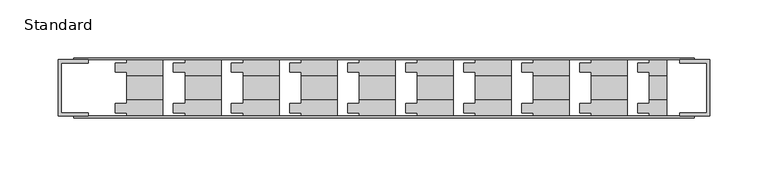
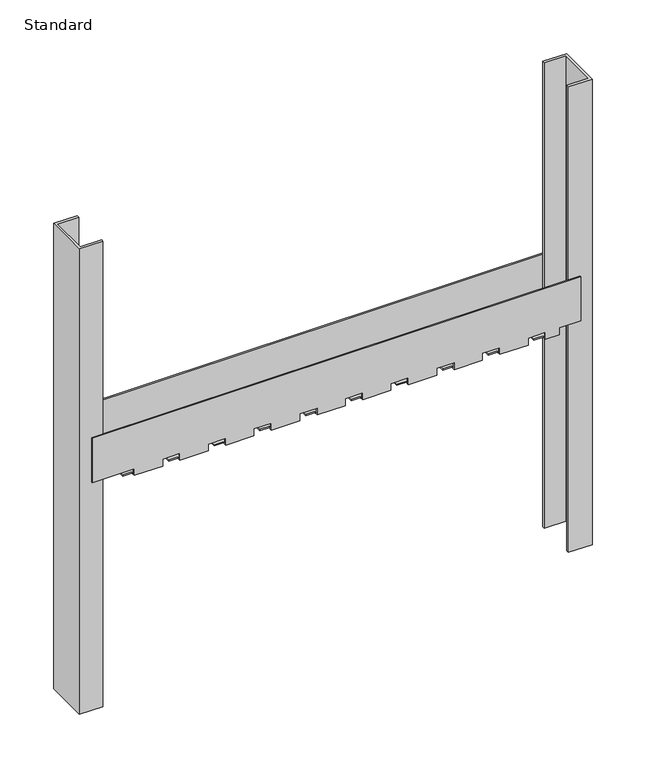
"""IFC4 building model written with IfcOpenShell, lengths in millimetres: electric appliance geometry, Bracket-Cross_Bar-Cablofil : Standard."""

from ifc_helpers import new_model, si_unit, frame, origin, place, context, project, spatial, polyline, outline, extrude, faceted_brep, source, transform, mapped, element, save


def standard_a21dcf37(model_context):
    return source(origin(), model_context, "Body", "SolidModel", [
        extrude(outline(polyline([(-254.67, 24.2445), (-254.67, 21.4945), (-278.0284, 21.4945), (-278.0284, -21.4945), (-254.67, -21.4945), (-254.67, -24.2445), (-280.67, -24.2445), (-280.67, 24.2445), (-254.67, 24.2445)])), frame((0.0, 0.0, -259.08), z_axis=(0.0, 0.0, 1.0), x_axis=(1.0, 0.0, 0.0)), (0.0, 0.0, 1.0), 538.48),
        extrude(outline(polyline([(254.67, 24.2445), (280.67, 24.2445), (280.67, -24.2445), (254.67, -24.2445), (254.67, -21.4945), (278.0284, -21.4945), (278.0284, 21.4945), (254.67, 21.4945), (254.67, 24.2445)])), frame((0.0, 0.0, -259.08), z_axis=(0.0, 0.0, 1.0), x_axis=(1.0, 0.0, 0.0)), (0.0, 0.0, 1.0), 538.48),
        faceted_brep([(267.3769456, 25.8445, 56.5), (267.3769456, 24.2445, 56.5), (267.3769456, 24.2445, 5.4905759), (267.3769456, 25.8445, 5.4905759), (267.3769456, -24.2445, 56.5), (267.3769456, -25.8445, 56.5), (267.3769456, -25.8445, 5.4905759), (267.3769456, -24.2445, 5.4905759), (-267.3769456, -25.8445, 56.5), (-267.3769456, -24.2445, 56.5), (-267.3769456, -24.2445, 5.4905759), (-267.3769456, -25.8445, 5.4905759), (-267.3769456, 24.2445, 56.5), (-267.3769456, 25.8445, 56.5), (-267.3769456, 25.8445, 5.4905759), (-267.3769456, 24.2445, 5.4905759), (-221.3269456, -25.8445, 5.4905759), (-221.3269456, -25.8445, -2.5), (-190.3269456, -25.8445, -2.5), (-190.3269456, -25.8445, 5.4905759), (-171.3269456, -25.8445, 5.4905759), (-171.3269456, -25.8445, -2.5), (-140.3269456, -25.8445, -2.5), (-140.3269456, -25.8445, 5.4905759), (-121.3269456, -25.8445, 5.4905759), (-121.3269456, -25.8445, -2.5), (-90.3269456, -25.8445, -2.5), (-90.3269456, -25.8445, 5.4905759), (-71.3269456, -25.8445, 5.4905759), (-71.3269456, -25.8445, -2.5), (-40.3269456, -25.8445, -2.5), (-40.3269456, -25.8445, 5.4905759), (-21.3269456, -25.8445, 5.4905759), (-21.3269456, -25.8445, -2.5), (9.525, -25.8445, -2.5), (9.525, -25.8445, 5.4905759), (28.525, -25.8445, 5.4905759), (28.525, -25.8445, -2.5), (59.525, -25.8445, -2.5), (59.525, -25.8445, 5.4905759), (78.525, -25.8445, 5.4905759), (78.525, -25.8445, -2.5), (109.525, -25.8445, -2.5), (109.525, -25.8445, 5.4905759), (128.525, -25.8445, 5.4905759), (128.525, -25.8445, -2.5), (159.525, -25.8445, -2.5), (159.525, -25.8445, 5.4905759), (178.525, -25.8445, 5.4905759), (178.525, -25.8445, -2.5), (209.525, -25.8445, -2.5), (209.525, -25.8445, 5.4905759), (228.525, -25.8445, 5.4905759), (228.525, -25.8445, -2.5), (243.525, -25.8445, -2.5), (243.525, -25.8445, 5.4905759), (-221.3269456, -21.4945, -2.5), (-231.3269456, -21.4945, -2.5), (-231.3269456, -13.4945, -2.5), (-221.3269456, -13.4945, -2.5), (-221.3269456, -8.5094634, -2.5), (-190.3269456, -8.5094634, -2.5), (-171.3269456, -21.4945, -2.5), (-181.3269456, -21.4945, -2.5), (-181.3269456, -13.4945, -2.5), (-171.3269456, -13.4945, -2.5), (-171.3269456, -8.5094634, -2.5), (-140.3269456, -8.5094634, -2.5), (-121.3269456, -21.4945, -2.5), (-131.3269456, -21.4945, -2.5), (-131.3269456, -13.4945, -2.5), (-121.3269456, -13.4945, -2.5), (-121.3269456, -8.5094634, -2.5), (-90.3269456, -8.5094634, -2.5), (-71.3269456, -21.4945, -2.5), (-81.3269456, -21.4945, -2.5), (-81.3269456, -13.4945, -2.5), (-71.3269456, -13.4945, -2.5), (-71.3269456, -8.5094634, -2.5), (-40.3269456, -8.5094634, -2.5), (-21.3269456, -21.4945, -2.5), (-31.3269456, -21.4945, -2.5), (-31.3269456, -13.4945, -2.5), (-21.3269456, -13.4945, -2.5), (-21.3269456, -8.5094634, -2.5), (9.525, -8.5094634, -2.5), (28.525, -21.4945, -2.5), (18.525, -21.4945, -2.5), (18.525, -13.4945, -2.5), (28.525, -13.4945, -2.5), (28.525, -8.5094634, -2.5), (59.525, -8.5094634, -2.5), (78.525, -21.4945, -2.5), (68.525, -21.4945, -2.5), (68.525, -13.4945, -2.5), (78.525, -13.4945, -2.5), (78.525, -8.5094634, -2.5), (109.525, -8.5094634, -2.5), (128.525, -21.4945, -2.5), (118.525, -21.4945, -2.5), (118.525, -13.4945, -2.5), (128.525, -13.4945, -2.5), (128.525, -8.5094634, -2.5), (159.525, -8.5094634, -2.5), (178.525, -21.4945, -2.5), (168.525, -21.4945, -2.5), (168.525, -13.4945, -2.5), (178.525, -13.4945, -2.5), (178.525, -8.5094634, -2.5), (209.525, -8.5094634, -2.5), (228.525, -21.4945, -2.5), (218.525, -21.4945, -2.5), (218.525, -13.4945, -2.5), (228.525, -13.4945, -2.5), (228.525, -8.5094634, -2.5), (243.525, -8.5094634, -2.5), (-190.3269456, -8.5094634, 0.0), (-221.3269456, -8.5094634, 0.0), (-221.3269456, 8.5094634, 0.0), (-190.3269456, 8.5094634, 0.0), (-140.3269456, -8.5094634, 0.0), (-171.3269456, -8.5094634, 0.0), (-171.3269456, 8.5094634, 0.0), (-140.3269456, 8.5094634, 0.0), (-90.3269456, -8.5094634, 0.0), (-121.3269456, -8.5094634, 0.0), (-121.3269456, 8.5094634, 0.0), (-90.3269456, 8.5094634, 0.0), (-40.3269456, -8.5094634, 0.0), (-71.3269456, -8.5094634, 0.0), (-71.3269456, 8.5094634, 0.0), (-40.3269456, 8.5094634, 0.0), (9.525, -8.5094634, 0.0), (-21.3269456, -8.5094634, 0.0), (-21.3269456, 8.5094634, 0.0), (9.525, 8.5094634, 0.0), (59.525, -8.5094634, 0.0), (28.525, -8.5094634, 0.0), (28.525, 8.5094634, 0.0), (59.525, 8.5094634, 0.0), (109.525, -8.5094634, 0.0), (78.525, -8.5094634, 0.0), (78.525, 8.5094634, 0.0), (109.525, 8.5094634, 0.0), (159.525, -8.5094634, 0.0), (128.525, -8.5094634, 0.0), (128.525, 8.5094634, 0.0), (159.525, 8.5094634, 0.0), (209.525, -8.5094634, 0.0), (178.525, -8.5094634, 0.0), (178.525, 8.5094634, 0.0), (209.525, 8.5094634, 0.0), (243.525, -8.5094634, 0.0), (228.525, -8.5094634, 0.0), (228.525, 8.5094634, 0.0), (243.525, 8.5094634, 0.0), (-190.3269456, 8.5094634, -2.5), (-221.3269456, 8.5094634, -2.5), (-221.3269456, 13.4945, -2.5), (-231.3269456, 13.4945, -2.5), (-231.3269456, 21.4945, -2.5), (-221.3269456, 21.4945, -2.5), (-221.3269456, 25.8445, -2.5), (-190.3269456, 25.8445, -2.5), (-140.3269456, 8.5094634, -2.5), (-171.3269456, 8.5094634, -2.5), (-171.3269456, 13.4945, -2.5), (-181.3269456, 13.4945, -2.5), (-181.3269456, 21.4945, -2.5), (-171.3269456, 21.4945, -2.5), (-171.3269456, 25.8445, -2.5), (-140.3269456, 25.8445, -2.5), (-90.3269456, 8.5094634, -2.5), (-121.3269456, 8.5094634, -2.5), (-121.3269456, 13.4945, -2.5), (-131.3269456, 13.4945, -2.5), (-131.3269456, 21.4945, -2.5), (-121.3269456, 21.4945, -2.5), (-121.3269456, 25.8445, -2.5), (-90.3269456, 25.8445, -2.5), (-40.3269456, 8.5094634, -2.5), (-71.3269456, 8.5094634, -2.5), (-71.3269456, 13.4945, -2.5), (-81.3269456, 13.4945, -2.5), (-81.3269456, 21.4945, -2.5), (-71.3269456, 21.4945, -2.5), (-71.3269456, 25.8445, -2.5), (-40.3269456, 25.8445, -2.5), (9.525, 8.5094634, -2.5), (-21.3269456, 8.5094634, -2.5), (-21.3269456, 13.4945, -2.5), (-31.3269456, 13.4945, -2.5), (-31.3269456, 21.4945, -2.5), (-21.3269456, 21.4945, -2.5), (-21.3269456, 25.8445, -2.5), (9.525, 25.8445, -2.5), (59.525, 8.5094634, -2.5), (28.525, 8.5094634, -2.5), (28.525, 13.4945, -2.5), (18.525, 13.4945, -2.5), (18.525, 21.4945, -2.5), (28.525, 21.4945, -2.5), (28.525, 25.8445, -2.5), (59.525, 25.8445, -2.5), (109.525, 8.5094634, -2.5), (78.525, 8.5094634, -2.5), (78.525, 13.4945, -2.5), (68.525, 13.4945, -2.5), (68.525, 21.4945, -2.5), (78.525, 21.4945, -2.5), (78.525, 25.8445, -2.5), (109.525, 25.8445, -2.5), (159.525, 8.5094634, -2.5), (128.525, 8.5094634, -2.5), (128.525, 13.4945, -2.5), (118.525, 13.4945, -2.5), (118.525, 21.4945, -2.5), (128.525, 21.4945, -2.5), (128.525, 25.8445, -2.5), (159.525, 25.8445, -2.5), (209.525, 8.5094634, -2.5), (178.525, 8.5094634, -2.5), (178.525, 13.4945, -2.5), (168.525, 13.4945, -2.5), (168.525, 21.4945, -2.5), (178.525, 21.4945, -2.5), (178.525, 25.8445, -2.5), (209.525, 25.8445, -2.5), (243.525, 8.5094634, -2.5), (228.525, 8.5094634, -2.5), (228.525, 13.4945, -2.5), (218.525, 13.4945, -2.5), (218.525, 21.4945, -2.5), (228.525, 21.4945, -2.5), (228.525, 25.8445, -2.5), (243.525, 25.8445, -2.5), (243.525, 25.8445, 5.4905759), (228.525, 25.8445, 5.4905759), (209.525, 25.8445, 5.4905759), (178.525, 25.8445, 5.4905759), (159.525, 25.8445, 5.4905759), (128.525, 25.8445, 5.4905759), (109.525, 25.8445, 5.4905759), (78.525, 25.8445, 5.4905759), (59.525, 25.8445, 5.4905759), (28.525, 25.8445, 5.4905759), (9.525, 25.8445, 5.4905759), (-21.3269456, 25.8445, 5.4905759), (-40.3269456, 25.8445, 5.4905759), (-71.3269456, 25.8445, 5.4905759), (-90.3269456, 25.8445, 5.4905759), (-121.3269456, 25.8445, 5.4905759), (-140.3269456, 25.8445, 5.4905759), (-171.3269456, 25.8445, 5.4905759), (-190.3269456, 25.8445, 5.4905759), (-221.3269456, 25.8445, 5.4905759), (-221.3269456, 24.2445, 5.4905759), (-221.3269456, 24.2445, -0.9), (-190.3269456, 24.2445, -0.9), (-190.3269456, 24.2445, 5.4905759), (-171.3269456, 24.2445, 5.4905759), (-171.3269456, 24.2445, -0.9), (-140.3269456, 24.2445, -0.9), (-140.3269456, 24.2445, 5.4905759), (-121.3269456, 24.2445, 5.4905759), (-121.3269456, 24.2445, -0.9), (-90.3269456, 24.2445, -0.9), (-90.3269456, 24.2445, 5.4905759), (-71.3269456, 24.2445, 5.4905759), (-71.3269456, 24.2445, -0.9), (-40.3269456, 24.2445, -0.9), (-40.3269456, 24.2445, 5.4905759), (-21.3269456, 24.2445, 5.4905759), (-21.3269456, 24.2445, -0.9), (9.525, 24.2445, -0.9), (9.525, 24.2445, 5.4905759), (28.525, 24.2445, 5.4905759), (28.525, 24.2445, -0.9), (59.525, 24.2445, -0.9), (59.525, 24.2445, 5.4905759), (78.525, 24.2445, 5.4905759), (78.525, 24.2445, -0.9), (109.525, 24.2445, -0.9), (109.525, 24.2445, 5.4905759), (128.525, 24.2445, 5.4905759), (128.525, 24.2445, -0.9), (159.525, 24.2445, -0.9), (159.525, 24.2445, 5.4905759), (178.525, 24.2445, 5.4905759), (178.525, 24.2445, -0.9), (209.525, 24.2445, -0.9), (209.525, 24.2445, 5.4905759), (228.525, 24.2445, 5.4905759), (228.525, 24.2445, -0.9), (243.525, 24.2445, -0.9), (243.525, 24.2445, 5.4905759), (-221.3269456, 21.4945, -0.9), (-231.3269456, 21.4945, -0.9), (-231.3269456, 13.4945, -0.9), (-221.3269456, 13.4945, -0.9), (-221.3269456, 10.1096634, -0.9), (-190.3269456, 10.1096634, -0.9), (-171.3269456, 21.4945, -0.9), (-181.3269456, 21.4945, -0.9), (-181.3269456, 13.4945, -0.9), (-171.3269456, 13.4945, -0.9), (-171.3269456, 10.1096634, -0.9), (-140.3269456, 10.1096634, -0.9), (-121.3269456, 21.4945, -0.9), (-131.3269456, 21.4945, -0.9), (-131.3269456, 13.4945, -0.9), (-121.3269456, 13.4945, -0.9), (-121.3269456, 10.1096634, -0.9), (-90.3269456, 10.1096634, -0.9), (-71.3269456, 21.4945, -0.9), (-81.3269456, 21.4945, -0.9), (-81.3269456, 13.4945, -0.9), (-71.3269456, 13.4945, -0.9), (-71.3269456, 10.1096634, -0.9), (-40.3269456, 10.1096634, -0.9), (-21.3269456, 21.4945, -0.9), (-31.3269456, 21.4945, -0.9), (-31.3269456, 13.4945, -0.9), (-21.3269456, 13.4945, -0.9), (-21.3269456, 10.1096634, -0.9), (9.525, 10.1096634, -0.9), (28.525, 21.4945, -0.9), (18.525, 21.4945, -0.9), (18.525, 13.4945, -0.9), (28.525, 13.4945, -0.9), (28.525, 10.1096634, -0.9), (59.525, 10.1096634, -0.9), (78.525, 21.4945, -0.9), (68.525, 21.4945, -0.9), (68.525, 13.4945, -0.9), (78.525, 13.4945, -0.9), (78.525, 10.1096634, -0.9), (109.525, 10.1096634, -0.9), (128.525, 21.4945, -0.9), (118.525, 21.4945, -0.9), (118.525, 13.4945, -0.9), (128.525, 13.4945, -0.9), (128.525, 10.1096634, -0.9), (159.525, 10.1096634, -0.9), (178.525, 21.4945, -0.9), (168.525, 21.4945, -0.9), (168.525, 13.4945, -0.9), (178.525, 13.4945, -0.9), (178.525, 10.1096634, -0.9), (209.525, 10.1096634, -0.9), (228.525, 21.4945, -0.9), (218.525, 21.4945, -0.9), (218.525, 13.4945, -0.9), (228.525, 13.4945, -0.9), (228.525, 10.1096634, -0.9), (243.525, 10.1096634, -0.9), (-190.3269456, 10.1096634, 1.6), (-221.3269456, 10.1096634, 1.6), (-221.3269456, -10.1096634, 1.6), (-190.3269456, -10.1096634, 1.6), (-140.3269456, 10.1096634, 1.6), (-171.3269456, 10.1096634, 1.6), (-171.3269456, -10.1096634, 1.6), (-140.3269456, -10.1096634, 1.6), (-90.3269456, 10.1096634, 1.6), (-121.3269456, 10.1096634, 1.6), (-121.3269456, -10.1096634, 1.6), (-90.3269456, -10.1096634, 1.6), (-40.3269456, 10.1096634, 1.6), (-71.3269456, 10.1096634, 1.6), (-71.3269456, -10.1096634, 1.6), (-40.3269456, -10.1096634, 1.6), (9.525, 10.1096634, 1.6), (-21.3269456, 10.1096634, 1.6), (-21.3269456, -10.1096634, 1.6), (9.525, -10.1096634, 1.6), (59.525, 10.1096634, 1.6), (28.525, 10.1096634, 1.6), (28.525, -10.1096634, 1.6), (59.525, -10.1096634, 1.6), (109.525, 10.1096634, 1.6), (78.525, 10.1096634, 1.6), (78.525, -10.1096634, 1.6), (109.525, -10.1096634, 1.6), (159.525, 10.1096634, 1.6), (128.525, 10.1096634, 1.6), (128.525, -10.1096634, 1.6), (159.525, -10.1096634, 1.6), (209.525, 10.1096634, 1.6), (178.525, 10.1096634, 1.6), (178.525, -10.1096634, 1.6), (209.525, -10.1096634, 1.6), (243.525, 10.1096634, 1.6), (228.525, 10.1096634, 1.6), (228.525, -10.1096634, 1.6), (243.525, -10.1096634, 1.6), (-190.3269456, -10.1096634, -0.9), (-221.3269456, -10.1096634, -0.9), (-221.3269456, -13.4945, -0.9), (-231.3269456, -13.4945, -0.9), (-231.3269456, -21.4945, -0.9), (-221.3269456, -21.4945, -0.9), (-221.3269456, -24.2445, -0.9), (-190.3269456, -24.2445, -0.9), (-140.3269456, -10.1096634, -0.9), (-171.3269456, -10.1096634, -0.9), (-171.3269456, -13.4945, -0.9), (-181.3269456, -13.4945, -0.9), (-181.3269456, -21.4945, -0.9), (-171.3269456, -21.4945, -0.9), (-171.3269456, -24.2445, -0.9), (-140.3269456, -24.2445, -0.9), (-90.3269456, -10.1096634, -0.9), (-121.3269456, -10.1096634, -0.9), (-121.3269456, -13.4945, -0.9), (-131.3269456, -13.4945, -0.9), (-131.3269456, -21.4945, -0.9), (-121.3269456, -21.4945, -0.9), (-121.3269456, -24.2445, -0.9), (-90.3269456, -24.2445, -0.9), (-40.3269456, -10.1096634, -0.9), (-71.3269456, -10.1096634, -0.9), (-71.3269456, -13.4945, -0.9), (-81.3269456, -13.4945, -0.9), (-81.3269456, -21.4945, -0.9), (-71.3269456, -21.4945, -0.9), (-71.3269456, -24.2445, -0.9), (-40.3269456, -24.2445, -0.9), (9.525, -10.1096634, -0.9), (-21.3269456, -10.1096634, -0.9), (-21.3269456, -13.4945, -0.9), (-31.3269456, -13.4945, -0.9), (-31.3269456, -21.4945, -0.9), (-21.3269456, -21.4945, -0.9), (-21.3269456, -24.2445, -0.9), (9.525, -24.2445, -0.9), (59.525, -10.1096634, -0.9), (28.525, -10.1096634, -0.9), (28.525, -13.4945, -0.9), (18.525, -13.4945, -0.9), (18.525, -21.4945, -0.9), (28.525, -21.4945, -0.9), (28.525, -24.2445, -0.9), (59.525, -24.2445, -0.9), (109.525, -10.1096634, -0.9), (78.525, -10.1096634, -0.9), (78.525, -13.4945, -0.9), (68.525, -13.4945, -0.9), (68.525, -21.4945, -0.9), (78.525, -21.4945, -0.9), (78.525, -24.2445, -0.9), (109.525, -24.2445, -0.9), (159.525, -10.1096634, -0.9), (128.525, -10.1096634, -0.9), (128.525, -13.4945, -0.9), (118.525, -13.4945, -0.9), (118.525, -21.4945, -0.9), (128.525, -21.4945, -0.9), (128.525, -24.2445, -0.9), (159.525, -24.2445, -0.9), (209.525, -10.1096634, -0.9), (178.525, -10.1096634, -0.9), (178.525, -13.4945, -0.9), (168.525, -13.4945, -0.9), (168.525, -21.4945, -0.9), (178.525, -21.4945, -0.9), (178.525, -24.2445, -0.9), (209.525, -24.2445, -0.9), (243.525, -10.1096634, -0.9), (228.525, -10.1096634, -0.9), (228.525, -13.4945, -0.9), (218.525, -13.4945, -0.9), (218.525, -21.4945, -0.9), (228.525, -21.4945, -0.9), (228.525, -24.2445, -0.9), (243.525, -24.2445, -0.9), (243.525, -24.2445, 5.4905759), (228.525, -24.2445, 5.4905759), (209.525, -24.2445, 5.4905759), (178.525, -24.2445, 5.4905759), (159.525, -24.2445, 5.4905759), (128.525, -24.2445, 5.4905759), (109.525, -24.2445, 5.4905759), (78.525, -24.2445, 5.4905759), (59.525, -24.2445, 5.4905759), (28.525, -24.2445, 5.4905759), (9.525, -24.2445, 5.4905759), (-21.3269456, -24.2445, 5.4905759), (-40.3269456, -24.2445, 5.4905759), (-71.3269456, -24.2445, 5.4905759), (-90.3269456, -24.2445, 5.4905759), (-121.3269456, -24.2445, 5.4905759), (-140.3269456, -24.2445, 5.4905759), (-171.3269456, -24.2445, 5.4905759), (-190.3269456, -24.2445, 5.4905759), (-221.3269456, -24.2445, 5.4905759)], [[[0, 1, 2, 3]], [[4, 5, 6, 7]], [[8, 9, 10, 11]], [[12, 13, 14, 15]], [[5, 8, 11, 16, 17, 18, 19, 20, 21, 22, 23, 24, 25, 26, 27, 28, 29, 30, 31, 32, 33, 34, 35, 36, 37, 38, 39, 40, 41, 42, 43, 44, 45, 46, 47, 48, 49, 50, 51, 52, 53, 54, 55, 6]], [[18, 17, 56, 57, 58, 59, 60, 61]], [[22, 21, 62, 63, 64, 65, 66, 67]], [[26, 25, 68, 69, 70, 71, 72, 73]], [[30, 29, 74, 75, 76, 77, 78, 79]], [[34, 33, 80, 81, 82, 83, 84, 85]], [[38, 37, 86, 87, 88, 89, 90, 91]], [[42, 41, 92, 93, 94, 95, 96, 97]], [[46, 45, 98, 99, 100, 101, 102, 103]], [[50, 49, 104, 105, 106, 107, 108, 109]], [[54, 53, 110, 111, 112, 113, 114, 115]], [[116, 117, 118, 119]], [[120, 121, 122, 123]], [[124, 125, 126, 127]], [[128, 129, 130, 131]], [[132, 133, 134, 135]], [[136, 137, 138, 139]], [[140, 141, 142, 143]], [[144, 145, 146, 147]], [[148, 149, 150, 151]], [[152, 153, 154, 155]], [[156, 157, 158, 159, 160, 161, 162, 163]], [[164, 165, 166, 167, 168, 169, 170, 171]], [[172, 173, 174, 175, 176, 177, 178, 179]], [[180, 181, 182, 183, 184, 185, 186, 187]], [[188, 189, 190, 191, 192, 193, 194, 195]], [[196, 197, 198, 199, 200, 201, 202, 203]], [[204, 205, 206, 207, 208, 209, 210, 211]], [[212, 213, 214, 215, 216, 217, 218, 219]], [[220, 221, 222, 223, 224, 225, 226, 227]], [[228, 229, 230, 231, 232, 233, 234, 235]], [[13, 0, 3, 236, 235, 234, 237, 238, 227, 226, 239, 240, 219, 218, 241, 242, 211, 210, 243, 244, 203, 202, 245, 246, 195, 194, 247, 248, 187, 186, 249, 250, 179, 178, 251, 252, 171, 170, 253, 254, 163, 162, 255, 14]], [[1, 0, 13, 12]], [[1, 12, 15, 256, 257, 258, 259, 260, 261, 262, 263, 264, 265, 266, 267, 268, 269, 270, 271, 272, 273, 274, 275, 276, 277, 278, 279, 280, 281, 282, 283, 284, 285, 286, 287, 288, 289, 290, 291, 292, 293, 294, 295, 2]], [[258, 257, 296, 297, 298, 299, 300, 301]], [[262, 261, 302, 303, 304, 305, 306, 307]], [[266, 265, 308, 309, 310, 311, 312, 313]], [[270, 269, 314, 315, 316, 317, 318, 319]], [[274, 273, 320, 321, 322, 323, 324, 325]], [[278, 277, 326, 327, 328, 329, 330, 331]], [[282, 281, 332, 333, 334, 335, 336, 337]], [[286, 285, 338, 339, 340, 341, 342, 343]], [[290, 289, 344, 345, 346, 347, 348, 349]], [[294, 293, 350, 351, 352, 353, 354, 355]], [[356, 357, 358, 359]], [[360, 361, 362, 363]], [[364, 365, 366, 367]], [[368, 369, 370, 371]], [[372, 373, 374, 375]], [[376, 377, 378, 379]], [[380, 381, 382, 383]], [[384, 385, 386, 387]], [[388, 389, 390, 391]], [[392, 393, 394, 395]], [[396, 397, 398, 399, 400, 401, 402, 403]], [[404, 405, 406, 407, 408, 409, 410, 411]], [[412, 413, 414, 415, 416, 417, 418, 419]], [[420, 421, 422, 423, 424, 425, 426, 427]], [[428, 429, 430, 431, 432, 433, 434, 435]], [[436, 437, 438, 439, 440, 441, 442, 443]], [[444, 445, 446, 447, 448, 449, 450, 451]], [[452, 453, 454, 455, 456, 457, 458, 459]], [[460, 461, 462, 463, 464, 465, 466, 467]], [[468, 469, 470, 471, 472, 473, 474, 475]], [[9, 4, 7, 476, 475, 474, 477, 478, 467, 466, 479, 480, 459, 458, 481, 482, 451, 450, 483, 484, 443, 442, 485, 486, 435, 434, 487, 488, 427, 426, 489, 490, 419, 418, 491, 492, 411, 410, 493, 494, 403, 402, 495, 10]], [[5, 4, 9, 8]], [[255, 256, 15, 14]], [[495, 16, 11, 10]], [[493, 20, 19, 494]], [[259, 254, 253, 260]], [[491, 24, 23, 492]], [[263, 252, 251, 264]], [[489, 28, 27, 490]], [[267, 250, 249, 268]], [[487, 32, 31, 488]], [[271, 248, 247, 272]], [[485, 36, 35, 486]], [[275, 246, 245, 276]], [[483, 40, 39, 484]], [[279, 244, 243, 280]], [[481, 44, 43, 482]], [[283, 242, 241, 284]], [[479, 48, 47, 480]], [[287, 240, 239, 288]], [[477, 52, 51, 478]], [[291, 238, 237, 292]], [[295, 236, 3, 2]], [[55, 476, 7, 6]], [[256, 255, 162, 161, 296, 257]], [[296, 161, 160, 297]], [[297, 160, 159, 298]], [[298, 159, 158, 299]], [[299, 158, 157, 118, 117, 60, 59, 398, 397, 358, 357, 300]], [[254, 259, 258, 301, 356, 359, 396, 403, 494, 19, 18, 61, 116, 119, 156, 163]], [[260, 253, 170, 169, 302, 261]], [[302, 169, 168, 303]], [[303, 168, 167, 304]], [[304, 167, 166, 305]], [[305, 166, 165, 122, 121, 66, 65, 406, 405, 362, 361, 306]], [[252, 263, 262, 307, 360, 363, 404, 411, 492, 23, 22, 67, 120, 123, 164, 171]], [[264, 251, 178, 177, 308, 265]], [[308, 177, 176, 309]], [[309, 176, 175, 310]], [[310, 175, 174, 311]], [[311, 174, 173, 126, 125, 72, 71, 414, 413, 366, 365, 312]], [[250, 267, 266, 313, 364, 367, 412, 419, 490, 27, 26, 73, 124, 127, 172, 179]], [[268, 249, 186, 185, 314, 269]], [[314, 185, 184, 315]], [[315, 184, 183, 316]], [[316, 183, 182, 317]], [[317, 182, 181, 130, 129, 78, 77, 422, 421, 370, 369, 318]], [[248, 271, 270, 319, 368, 371, 420, 427, 488, 31, 30, 79, 128, 131, 180, 187]], [[272, 247, 194, 193, 320, 273]], [[320, 193, 192, 321]], [[321, 192, 191, 322]], [[322, 191, 190, 323]], [[323, 190, 189, 134, 133, 84, 83, 430, 429, 374, 373, 324]], [[246, 275, 274, 325, 372, 375, 428, 435, 486, 35, 34, 85, 132, 135, 188, 195]], [[276, 245, 202, 201, 326, 277]], [[326, 201, 200, 327]], [[327, 200, 199, 328]], [[328, 199, 198, 329]], [[329, 198, 197, 138, 137, 90, 89, 438, 437, 378, 377, 330]], [[244, 279, 278, 331, 376, 379, 436, 443, 484, 39, 38, 91, 136, 139, 196, 203]], [[280, 243, 210, 209, 332, 281]], [[332, 209, 208, 333]], [[333, 208, 207, 334]], [[334, 207, 206, 335]], [[335, 206, 205, 142, 141, 96, 95, 446, 445, 382, 381, 336]], [[242, 283, 282, 337, 380, 383, 444, 451, 482, 43, 42, 97, 140, 143, 204, 211]], [[284, 241, 218, 217, 338, 285]], [[338, 217, 216, 339]], [[339, 216, 215, 340]], [[340, 215, 214, 341]], [[341, 214, 213, 146, 145, 102, 101, 454, 453, 386, 385, 342]], [[240, 287, 286, 343, 384, 387, 452, 459, 480, 47, 46, 103, 144, 147, 212, 219]], [[288, 239, 226, 225, 344, 289]], [[344, 225, 224, 345]], [[345, 224, 223, 346]], [[346, 223, 222, 347]], [[347, 222, 221, 150, 149, 108, 107, 462, 461, 390, 389, 348]], [[238, 291, 290, 349, 388, 391, 460, 467, 478, 51, 50, 109, 148, 151, 220, 227]], [[292, 237, 234, 233, 350, 293]], [[350, 233, 232, 351]], [[351, 232, 231, 352]], [[352, 231, 230, 353]], [[353, 230, 229, 154, 153, 114, 113, 470, 469, 394, 393, 354]], [[236, 295, 294, 355, 392, 395, 468, 475, 476, 55, 54, 115, 152, 155, 228, 235]], [[117, 116, 61, 60]], [[121, 120, 67, 66]], [[125, 124, 73, 72]], [[129, 128, 79, 78]], [[133, 132, 85, 84]], [[137, 136, 91, 90]], [[141, 140, 97, 96]], [[145, 144, 103, 102]], [[149, 148, 109, 108]], [[153, 152, 115, 114]], [[157, 156, 119, 118]], [[165, 164, 123, 122]], [[173, 172, 127, 126]], [[181, 180, 131, 130]], [[189, 188, 135, 134]], [[197, 196, 139, 138]], [[205, 204, 143, 142]], [[213, 212, 147, 146]], [[221, 220, 151, 150]], [[229, 228, 155, 154]], [[357, 356, 301, 300]], [[361, 360, 307, 306]], [[365, 364, 313, 312]], [[369, 368, 319, 318]], [[373, 372, 325, 324]], [[377, 376, 331, 330]], [[381, 380, 337, 336]], [[385, 384, 343, 342]], [[389, 388, 349, 348]], [[393, 392, 355, 354]], [[397, 396, 359, 358]], [[405, 404, 363, 362]], [[413, 412, 367, 366]], [[421, 420, 371, 370]], [[429, 428, 375, 374]], [[437, 436, 379, 378]], [[445, 444, 383, 382]], [[453, 452, 387, 386]], [[461, 460, 391, 390]], [[469, 468, 395, 394]], [[398, 59, 58, 399]], [[399, 58, 57, 400]], [[400, 57, 56, 401]], [[16, 495, 402, 401, 56, 17]], [[406, 65, 64, 407]], [[407, 64, 63, 408]], [[408, 63, 62, 409]], [[20, 493, 410, 409, 62, 21]], [[414, 71, 70, 415]], [[415, 70, 69, 416]], [[416, 69, 68, 417]], [[24, 491, 418, 417, 68, 25]], [[422, 77, 76, 423]], [[423, 76, 75, 424]], [[424, 75, 74, 425]], [[28, 489, 426, 425, 74, 29]], [[430, 83, 82, 431]], [[431, 82, 81, 432]], [[432, 81, 80, 433]], [[32, 487, 434, 433, 80, 33]], [[438, 89, 88, 439]], [[439, 88, 87, 440]], [[440, 87, 86, 441]], [[36, 485, 442, 441, 86, 37]], [[446, 95, 94, 447]], [[447, 94, 93, 448]], [[448, 93, 92, 449]], [[40, 483, 450, 449, 92, 41]], [[454, 101, 100, 455]], [[455, 100, 99, 456]], [[456, 99, 98, 457]], [[44, 481, 458, 457, 98, 45]], [[462, 107, 106, 463]], [[463, 106, 105, 464]], [[464, 105, 104, 465]], [[48, 479, 466, 465, 104, 49]], [[470, 113, 112, 471]], [[471, 112, 111, 472]], [[472, 111, 110, 473]], [[52, 477, 474, 473, 110, 53]]]),
    ])


if __name__ == "__main__":
    model = new_model("IFC4")
    model_context = context("Model", 3, world=origin())
    ifc_project = project(units=[si_unit("LENGTHUNIT", "METRE", prefix="MILLI")], contexts=[model_context])
    site = spatial("IfcSite", under=ifc_project)
    building = spatial("IfcBuilding", under=site)
    placement = place(None, origin())
    standard_shape = standard_a21dcf37(model_context)
    element("IfcElectricAppliance", 1, ObjectType="Bracket-Cross_Bar-Cablofil : Standard", at=placement, inside=building, context=model_context, shape_type="MappedRepresentation", body=[
        mapped(standard_shape, transform((0.0, 0.0, 0.0), x_axis=(1.0, 0.0, 0.0), y_axis=(0.0, 1.0, 0.0), z_axis=(0.0, 0.0, 1.0))),
    ])
    save(model, "model.ifc")
